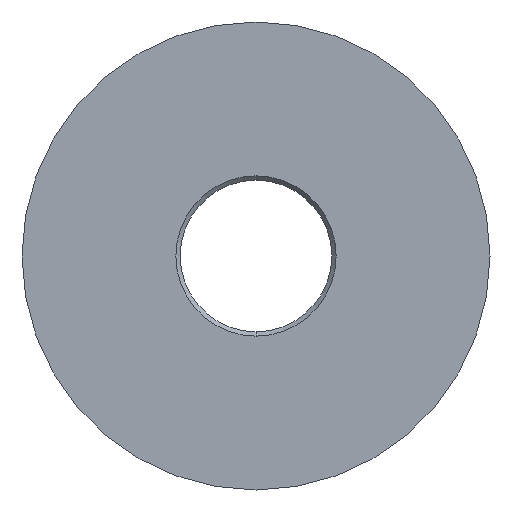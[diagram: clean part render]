
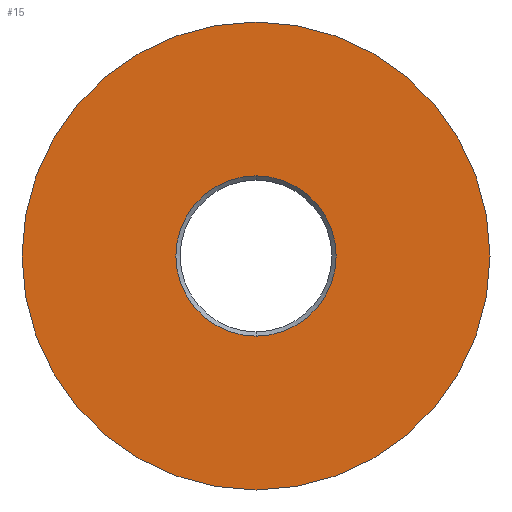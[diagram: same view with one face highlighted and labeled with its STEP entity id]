
A CAD part, front view. The second image highlights one B-rep face of the part: STEP entity #15.
In plain terms, the highlighted planar face has unit normal (0, -1, 0).
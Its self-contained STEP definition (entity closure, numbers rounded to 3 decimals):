
#8 = CARTESIAN_POINT ( 'NONE',  ( 0., 0., -27.01 ) ) ;
#15 = ADVANCED_FACE ( 'NONE', ( #450, #150 ), #214, .T. ) ;
#20 = EDGE_LOOP ( 'NONE', ( #418, #417 ) ) ;
#21 = DIRECTION ( 'NONE',  ( 0., 0., -1. ) ) ;
#24 = AXIS2_PLACEMENT_3D ( 'NONE', #117, #171, #21 ) ;
#92 = VERTEX_POINT ( 'NONE', #370 ) ;
#104 = DIRECTION ( 'NONE',  ( 0., -1., 0. ) ) ;
#117 = CARTESIAN_POINT ( 'NONE',  ( 27.01, 0., 0. ) ) ;
#141 = VERTEX_POINT ( 'NONE', #309 ) ;
#150 = FACE_OUTER_BOUND ( 'NONE', #224, .T. ) ;
#171 = DIRECTION ( 'NONE',  ( 0., -1., 0. ) ) ;
#174 = CARTESIAN_POINT ( 'NONE',  ( 0., 0., 0. ) ) ;
#182 = DIRECTION ( 'NONE',  ( 0., 0., -1. ) ) ;
#183 = AXIS2_PLACEMENT_3D ( 'NONE', #174, #470, #434 ) ;
#196 = EDGE_CURVE ( 'NONE', #201, #92, #368, .T. ) ;
#201 = VERTEX_POINT ( 'NONE', #8 ) ;
#202 = DIRECTION ( 'NONE',  ( 0., 0., -1. ) ) ;
#206 = CARTESIAN_POINT ( 'NONE',  ( 0., 0., 0. ) ) ;
#214 = PLANE ( 'NONE',  #24 ) ;
#224 = EDGE_LOOP ( 'NONE', ( #430, #345 ) ) ;
#309 = CARTESIAN_POINT ( 'NONE',  ( 0., 0., -9.25 ) ) ;
#338 = CIRCLE ( 'NONE', #554, 9.25 ) ;
#345 = ORIENTED_EDGE ( 'NONE', *, *, #572, .T. ) ;
#351 = CARTESIAN_POINT ( 'NONE',  ( 0., 0., 0. ) ) ;
#357 = CARTESIAN_POINT ( 'NONE',  ( 0., 0., 0. ) ) ;
#368 = CIRCLE ( 'NONE', #548, 27.01 ) ;
#370 = CARTESIAN_POINT ( 'NONE',  ( 0., 0., 27.01 ) ) ;
#380 = DIRECTION ( 'NONE',  ( 0., 0., -1. ) ) ;
#390 = VERTEX_POINT ( 'NONE', #454 ) ;
#417 = ORIENTED_EDGE ( 'NONE', *, *, #545, .T. ) ;
#418 = ORIENTED_EDGE ( 'NONE', *, *, #460, .T. ) ;
#430 = ORIENTED_EDGE ( 'NONE', *, *, #196, .T. ) ;
#434 = DIRECTION ( 'NONE',  ( 0., 0., -1. ) ) ;
#437 = DIRECTION ( 'NONE',  ( 0., 1., 0. ) ) ;
#450 = FACE_BOUND ( 'NONE', #20, .T. ) ;
#453 = CIRCLE ( 'NONE', #516, 27.01 ) ;
#454 = CARTESIAN_POINT ( 'NONE',  ( 0., 0., 9.25 ) ) ;
#460 = EDGE_CURVE ( 'NONE', #141, #390, #338, .T. ) ;
#470 = DIRECTION ( 'NONE',  ( 0., 1., 0. ) ) ;
#481 = CIRCLE ( 'NONE', #183, 9.25 ) ;
#506 = DIRECTION ( 'NONE',  ( 0., -1., 0. ) ) ;
#516 = AXIS2_PLACEMENT_3D ( 'NONE', #357, #506, #380 ) ;
#545 = EDGE_CURVE ( 'NONE', #390, #141, #481, .T. ) ;
#548 = AXIS2_PLACEMENT_3D ( 'NONE', #206, #104, #202 ) ;
#554 = AXIS2_PLACEMENT_3D ( 'NONE', #351, #437, #182 ) ;
#572 = EDGE_CURVE ( 'NONE', #92, #201, #453, .T. ) ;
